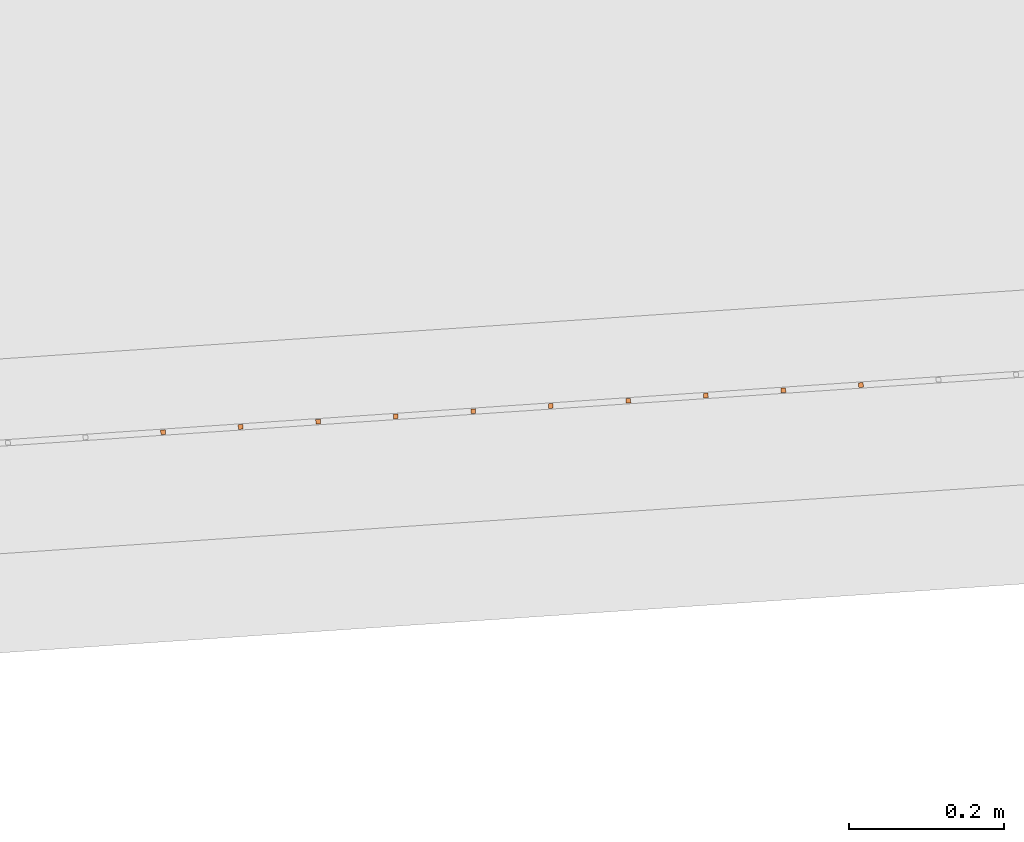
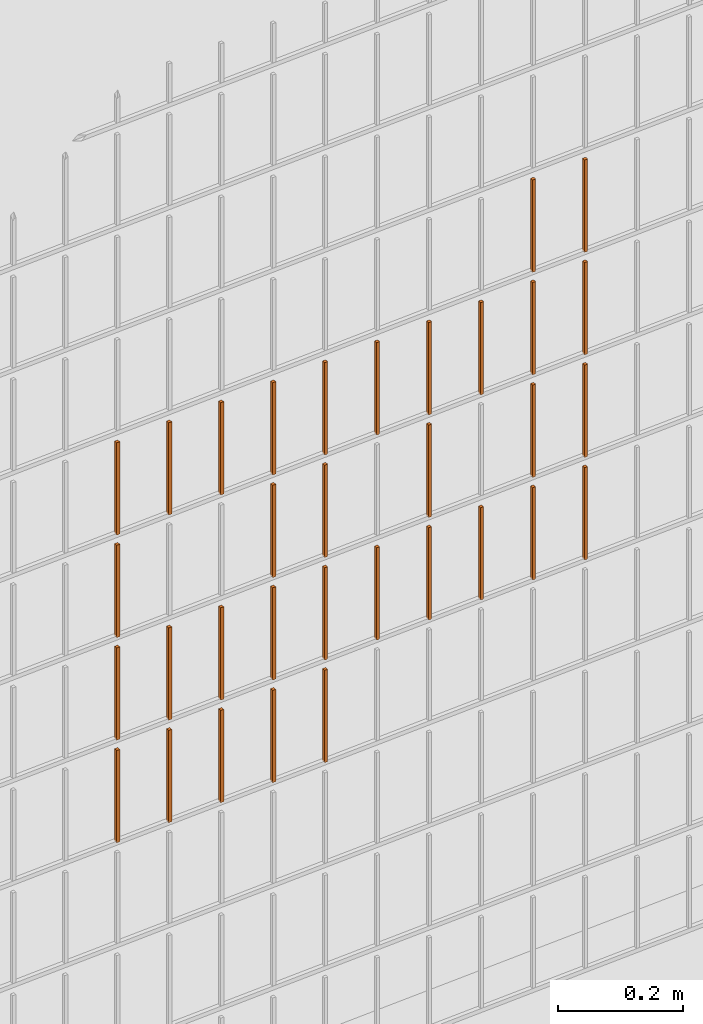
# One storey, part 287 of 1809: 33 proxies, 1 element without a shape of its own.
"""IFC2X3 building model written with IfcOpenShell, lengths in millimetres."""

import ifcopenshell
import ifcopenshell.guid

model = None  # the IFC model being written
_history = None  # IfcOwnerHistory: only IFC2X3 demands one
_inside = {}  # id of a spatial element -> (the spatial element, [elements in it])
_under = {}  # id of a project, library or spatial element -> (it, [spatial elements below it])
_declared = {}  # id of a project -> (the project, [libraries it declares])
_typed = {}  # id of a type object -> (the type object, [elements of that type])
_made_of = {}  # id of a material, layer set ... -> (it, [elements and type objects made of it])


def new_model(schema):
    """Start an empty IFC model of exactly this schema.

    Asked for "IFC4X3", IfcOpenShell would pick the latest addendum, in which some entities
    have other attributes; the version numbers below select the first issue.
    IFC2X3 requires an IfcOwnerHistory on every rooted entity: one is made here for all.
    """
    global model, _history
    if schema == "IFC4X3":
        model = ifcopenshell.file(schema_version=(4, 3, 0, 0))
    else:
        model = ifcopenshell.file(schema=schema)
    _inside.clear()
    _under.clear()
    _declared.clear()
    _typed.clear()
    _made_of.clear()
    _history = None
    if model.schema == "IFC2X3":
        org = make("IfcOrganization", Name="unknown")
        user = make(
            "IfcPersonAndOrganization",
            ThePerson=make("IfcPerson", FamilyName="unknown"),
            TheOrganization=org,
        )
        app = make(
            "IfcApplication",
            ApplicationDeveloper=org,
            Version="unknown",
            ApplicationFullName="unknown",
            ApplicationIdentifier="unknown",
        )
        _history = make(
            "IfcOwnerHistory",
            OwningUser=user,
            OwningApplication=app,
            ChangeAction="ADDED",
            CreationDate=0,
        )
    return model


def make(cls, **values):
    """One entity of the class cls with the attributes given. An attribute that is None is left unset."""
    return model.create_entity(
        cls, **{name: value for name, value in values.items() if value is not None}
    )


def entity(cls, *values):
    """Any entity or typed value of the class cls, its attributes in the order of the schema. None: left unset."""
    e = model.create_entity(cls)
    for i, value in enumerate(values):
        if value is not None:
            e[i] = value
    return e


def rooted(cls, **values):
    """An entity with a GlobalId (a new one), such as an element, a storey or a relation."""
    return make(cls, GlobalId=ifcopenshell.guid.new(), OwnerHistory=_history, **values)


def si_unit(unit_type, name, prefix=None):
    """IfcSIUnit, for example si_unit("LENGTHUNIT", "METRE", prefix="MILLI")."""
    return make("IfcSIUnit", UnitType=unit_type, Prefix=prefix, Name=name)


def converted_unit(unit_type, name, factor, base, dimensions=None, offset=None):
    """IfcConversionBasedUnit, such as the inch: factor (a typed value) times the base unit."""
    return make(
        "IfcConversionBasedUnit"
        if offset is None
        else "IfcConversionBasedUnitWithOffset",
        ConversionOffset=offset,
        Dimensions=None
        if dimensions is None
        else entity("IfcDimensionalExponents", *dimensions),
        UnitType=unit_type,
        Name=name,
        ConversionFactor=make(
            "IfcMeasureWithUnit", ValueComponent=factor, UnitComponent=base
        ),
    )


def derived_unit(unit_type, elements):
    """IfcDerivedUnit: a product of units, each with its exponent."""
    return make(
        "IfcDerivedUnit",
        Elements=[
            make("IfcDerivedUnitElement", Unit=unit, Exponent=power)
            for unit, power in elements
        ],
        UnitType=unit_type,
    )


def money_unit(currency):
    """IfcMonetaryUnit."""
    return make("IfcMonetaryUnit", Currency=currency)


def assignment(units):
    """IfcUnitAssignment: the units of a project."""
    return None if units is None else make("IfcUnitAssignment", Units=units)


def point(xyz):
    """IfcCartesianPoint."""
    return None if xyz is None else make("IfcCartesianPoint", Coordinates=xyz)


def direction(xyz):
    """IfcDirection."""
    return None if xyz is None else make("IfcDirection", DirectionRatios=xyz)


def frame(location, z_axis=None, x_axis=None):
    """IfcAxis2Placement3D, a coordinate frame: its origin and axes. An axis left out is left unset."""
    return make(
        "IfcAxis2Placement3D",
        Location=point(location),
        Axis=direction(z_axis),
        RefDirection=direction(x_axis),
    )


def origin_with_axes():
    """The frame at (0, 0, 0) with the z axis (0, 0, 1) and the x axis (1, 0, 0) written out."""
    return frame((0.0, 0.0, 0.0), z_axis=(0.0, 0.0, 1.0), x_axis=(1.0, 0.0, 0.0))


def place(relative_to, where):
    """IfcLocalPlacement: puts the frame where relative to a parent placement (None: the world)."""
    return make(
        "IfcLocalPlacement", PlacementRelTo=relative_to, RelativePlacement=where
    )


def context(
    kind, dimensions, precision=None, world=None, true_north=None, identifier=None
):
    """IfcGeometricRepresentationContext, for example the 3D "Model" context."""
    return make(
        "IfcGeometricRepresentationContext",
        ContextIdentifier=identifier,
        ContextType=kind,
        CoordinateSpaceDimension=dimensions,
        Precision=precision,
        WorldCoordinateSystem=world,
        TrueNorth=true_north,
    )


def subcontext(parent, identifier, kind, view, scale=None):
    """IfcGeometricRepresentationSubContext, for example "Body" below "Model"."""
    return make(
        "IfcGeometricRepresentationSubContext",
        ContextIdentifier=identifier,
        ContextType=kind,
        ParentContext=parent,
        TargetScale=scale,
        TargetView=view,
    )


def project(units=None, contexts=None):
    """IfcProject with its units and contexts."""
    return rooted(
        "IfcProject",
        Name="project",
        RepresentationContexts=contexts,
        UnitsInContext=assignment(units),
    )


def spatial(cls, under=None, at=None, **own):
    """A site, building, storey or space (cls), placed at a placement, below another one or the project."""
    s = rooted(cls, ObjectPlacement=at, **own)
    if under is not None:
        _under.setdefault(under.id(), (under, []))[1].append(s)
    return s


def faces_of(points, faces, orient=None, outer=None):
    """IfcFace entities. A face is a list of loops; a loop is a list of indices into points, from 0.

    orient and outer hold one flag for each loop. By default every Orientation is true, the
    first loop of a face is its IfcFaceOuterBound and the others are IfcFaceBound.
    """
    made = []
    for i, loops in enumerate(faces):
        bounds = []
        for j, loop in enumerate(loops):
            is_outer = j == 0 if outer is None else outer[i][j]
            bounds.append(
                make(
                    "IfcFaceOuterBound" if is_outer else "IfcFaceBound",
                    Bound=make("IfcPolyLoop", Polygon=[points[k] for k in loop]),
                    Orientation=True if orient is None else orient[i][j],
                )
            )
        made.append(make("IfcFace", Bounds=bounds))
    return made


def faceted_brep(points, faces, orient=None, outer=None, voids=None):
    """IfcFacetedBrep: a solid bounded by flat faces; with voids (closed shells), ...WithVoids."""
    shared = [point(p) for p in points]
    hull = make("IfcClosedShell", CfsFaces=faces_of(shared, faces, orient, outer))
    if voids is None:
        return make("IfcFacetedBrep", Outer=hull)
    return make(
        "IfcFacetedBrepWithVoids",
        Outer=hull,
        Voids=[
            make(cls, CfsFaces=faces_of(shared, fs, o, b)) for cls, fs, o, b in voids
        ],
    )


def shape(context_of_items, identifier, shape_type, items):
    """IfcShapeRepresentation: the items that make up one representation, for example the "Body"."""
    return make(
        "IfcShapeRepresentation",
        ContextOfItems=context_of_items,
        RepresentationIdentifier=identifier,
        RepresentationType=shape_type,
        Items=items,
    )


def source(mapping_origin, context_of_items, identifier, shape_type, items):
    """IfcRepresentationMap: a shape defined once, which mapped items show again and again."""
    return make(
        "IfcRepresentationMap",
        MappingOrigin=mapping_origin,
        MappedRepresentation=shape(context_of_items, identifier, shape_type, items),
    )


def transform(
    local_origin,
    x_axis=None,
    y_axis=None,
    z_axis=None,
    scale=None,
    scale2=None,
    scale3=None,
    uniform=True,
):
    """IfcCartesianTransformationOperator3D, or its non-uniform kind. x_axis, y_axis, z_axis: its Axis1, 2, 3."""
    if uniform:
        return make(
            "IfcCartesianTransformationOperator3D",
            Axis1=direction(x_axis),
            Axis2=direction(y_axis),
            LocalOrigin=point(local_origin),
            Scale=scale,
            Axis3=direction(z_axis),
        )
    return make(
        "IfcCartesianTransformationOperator3DnonUniform",
        Axis1=direction(x_axis),
        Axis2=direction(y_axis),
        LocalOrigin=point(local_origin),
        Scale=scale,
        Axis3=direction(z_axis),
        Scale2=scale2,
        Scale3=scale3,
    )


def mapped(mapping_source, mapping_target):
    """IfcMappedItem: shows the shape of a source again, moved by a transform."""
    return make(
        "IfcMappedItem", MappingSource=mapping_source, MappingTarget=mapping_target
    )


def material(Name=None, Category=None):
    """IfcMaterial."""
    return make("IfcMaterial", Name=Name, Category=Category)


def made_of(thing, what):
    """Note that an element or type object is made of a material, layer set ...; save() writes the relation."""
    if what is not None:
        _made_of.setdefault(what.id(), (what, []))[1].append(thing)
    return thing


def type_object(cls, material=None, **own):
    """A type object (cls), such as IfcWallType, which elements share."""
    return made_of(rooted(cls, **own), material)


def element(
    cls,
    number,
    at=None,
    inside=None,
    cuts=None,
    type_object=None,
    material=None,
    context=None,
    identifier="Body",
    shape_type=None,
    held_by="IfcProductDefinitionShape",
    body=None,
    shapes=None,
    **own,
):
    """One element of the class cls, such as IfcWall. Its Tag is "e" and its number.

    at: its placement. inside: the storey or other place that contains it. cuts: it is an
    opening in that element (IfcRelVoidsElement). A single representation is given by context,
    identifier, shape_type and body (its items); several are given by shapes. held_by: the class
    of the entity that holds the representations. save() writes the other relations.
    """
    e = rooted(cls, Tag="e%d" % number, ObjectPlacement=at, **own)
    if body is not None:
        shapes = [shape(context, identifier, shape_type, body)]
    if shapes is not None:
        e.Representation = make(held_by, Representations=shapes)
    if inside is not None:
        _inside.setdefault(inside.id(), (inside, []))[1].append(e)
    if cuts is not None:
        rooted(
            "IfcRelVoidsElement", RelatingBuildingElement=cuts, RelatedOpeningElement=e
        )
    if type_object is not None:
        _typed.setdefault(type_object.id(), (type_object, []))[1].append(e)
    return made_of(e, material)


def aggregate(whole, parts):
    """IfcRelAggregates: a whole, such as a stair, and the parts it consists of."""
    return rooted("IfcRelAggregates", RelatingObject=whole, RelatedObjects=parts)


def save(model, path):
    """Write the relations noted so far, then the file.

    IfcRelAggregates (storeys below a building ...), IfcRelContainedInSpatialStructure (elements
    in a storey), IfcRelDefinesByType, IfcRelAssociatesMaterial and IfcRelDeclares: one each for
    every whole, place, type object, material and project.
    """
    for whole, parts in _under.values():
        aggregate(whole, parts)
    for where, things in _inside.values():
        rooted(
            "IfcRelContainedInSpatialStructure",
            RelatedElements=things,
            RelatingStructure=where,
        )
    for kind, things in _typed.values():
        rooted("IfcRelDefinesByType", RelatedObjects=things, RelatingType=kind)
    for what, things in _made_of.values():
        rooted("IfcRelAssociatesMaterial", RelatedObjects=things, RelatingMaterial=what)
    for by, libraries in _declared.values():
        rooted("IfcRelDeclares", RelatingContext=by, RelatedDefinitions=libraries)
    model.write(path)


model = new_model("IFC2X3")

# Units and contexts
model_context = context("Model", 3, precision=0.01, world=origin_with_axes(), true_north=direction((0.0, 1.0)))
body_context = subcontext(model_context, "Body", "Model", "MODEL_VIEW")
ifc_project = project(units=[si_unit("LENGTHUNIT", "METRE", prefix="MILLI"), si_unit("AREAUNIT", "SQUARE_METRE"), si_unit("VOLUMEUNIT", "CUBIC_METRE"), converted_unit("PLANEANGLEUNIT", "DEGREE", entity("IfcPlaneAngleMeasure", 0.0174532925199), si_unit("PLANEANGLEUNIT", "RADIAN"), dimensions=[0, 0, 0, 0, 0, 0, 0]), si_unit("SOLIDANGLEUNIT", "STERADIAN"), money_unit("EUR"), converted_unit("TIMEUNIT", "Year", entity("IfcTimeMeasure", 31556926.0), si_unit("TIMEUNIT", "SECOND"), dimensions=[0, 0, 1, 0, 0, 0, 0]), si_unit("MASSUNIT", "GRAM", prefix="KILO"), si_unit("THERMODYNAMICTEMPERATUREUNIT", "DEGREE_CELSIUS"), si_unit("LUMINOUSINTENSITYUNIT", "LUMEN"), si_unit("ENERGYUNIT", "JOULE", prefix="MEGA"), derived_unit("THERMALCONDUCTANCEUNIT", [(si_unit("POWERUNIT", "WATT"), 1), (si_unit("LENGTHUNIT", "METRE"), -1), (si_unit("THERMODYNAMICTEMPERATUREUNIT", "KELVIN"), -1)]), derived_unit("SPECIFICHEATCAPACITYUNIT", [(si_unit("ENERGYUNIT", "JOULE"), 1), (si_unit("MASSUNIT", "GRAM", prefix="KILO"), -1), (si_unit("THERMODYNAMICTEMPERATUREUNIT", "KELVIN"), -1)]), derived_unit("MASSDENSITYUNIT", [(si_unit("MASSUNIT", "GRAM", prefix="KILO"), 1), (si_unit("VOLUMEUNIT", "CUBIC_METRE"), -1)])], contexts=[model_context])

# Site, building, storey
site_placement = place(None, origin_with_axes())
site = spatial("IfcSite", under=ifc_project, at=site_placement, Name="Politse- ja Piirivalveameti ning Päästeameti ühishoone", CompositionType="ELEMENT")
building_placement = place(site_placement, origin_with_axes())
building = spatial("IfcBuilding", under=site, at=building_placement, Name="Politse- ja Piirivalveameti ning Päästeameti ühishoone", CompositionType="ELEMENT")
storey_placement = place(building_placement, origin_with_axes())
storey = spatial("IfcBuildingStorey", under=building, at=storey_placement, Name="Esimene korrus", CompositionType="ELEMENT", Elevation=0.0)

# Proxies
building_element_proxy_type_1 = type_object("IfcBuildingElementProxyType", Name="Railing Type", PredefinedType="NOTDEFINED")
proxy_1_placement = place(storey_placement, frame((89252.001212, -29183.4766571, 203.661247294), z_axis=(0.0, 0.0, 1.0), x_axis=(1.0, 0.0, 0.0)))
proxy_1 = element("IfcBuildingElementProxy", 1, at=proxy_1_placement, inside=storey, type_object=building_element_proxy_type_1, Name="PIIRDEAED")
ifc_material = material(Name="ET-03_Raud")
building_element_proxy_type_2 = type_object("IfcBuildingElementProxyType", Name="IfcBuildingElementProxy", PredefinedType="NOTDEFINED")
shared_shape_1 = source(origin_with_axes(), body_context, "Body", "Brep", [
    faceted_brep([(3.0, 3.0, -0.000752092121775), (-3.0, 3.0, -0.000752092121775), (-3.0, 3.0, 179.99926046), (3.0, 3.0, 179.99926046), (3.0, -3.0, 0.000752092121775), (-3.0, -3.0, 0.000752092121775), (-3.0, -3.0, 180.000764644), (3.0, -3.0, 180.000764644)], [[[0, 1, 2, 3]], [[0, 4, 5, 1]], [[1, 5, 6, 2]], [[3, 2, 6, 7]], [[4, 0, 3, 7]], [[5, 4, 7, 6]]]),
])
proxy_2_placement = place(proxy_1_placement, frame((-48815.4546236, -20595.0744985, 614.968593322), z_axis=(0.0, 0.0, 1.0), x_axis=(1.0, 0.0, 0.0)))
proxy_2 = element("IfcBuildingElementProxy", 2, at=proxy_2_placement, type_object=building_element_proxy_type_2, material=ifc_material, Name="BALUSTER - 001", context=body_context, shape_type="MappedRepresentation", body=[
    mapped(shared_shape_1, transform((0.0, 0.0, 0.0), x_axis=(-0.0673926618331, 0.997726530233, 0.0), y_axis=(-0.997726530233, -0.0673926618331, 0.0), z_axis=(0.0, 0.0, 1.0))),
])
shared_shape_2 = source(origin_with_axes(), body_context, "Body", "Brep", [
    faceted_brep([(3.0, 3.0, -0.000752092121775), (-3.0, 3.0, -0.000752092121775), (-3.0, 3.0, 179.99926046), (3.0, 3.0, 179.99926046), (3.0, -3.0, 0.000752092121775), (-3.0, -3.0, 0.000752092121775), (-3.0, -3.0, 180.000764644), (3.0, -3.0, 180.000764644)], [[[0, 1, 2, 3]], [[0, 4, 5, 1]], [[1, 5, 6, 2]], [[3, 2, 6, 7]], [[4, 0, 3, 7]], [[5, 4, 7, 6]]]),
])
proxy_3_placement = place(proxy_1_placement, frame((-48416.3640115, -20568.1174338, 815.068872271), z_axis=(0.0, 0.0, 1.0), x_axis=(1.0, 0.0, 0.0)))
proxy_3 = element("IfcBuildingElementProxy", 3, at=proxy_3_placement, type_object=building_element_proxy_type_2, material=ifc_material, Name="BALUSTER - 001", context=body_context, shape_type="MappedRepresentation", body=[
    mapped(shared_shape_2, transform((0.0, 0.0, 0.0), x_axis=(-0.0673926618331, 0.997726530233, 0.0), y_axis=(-0.997726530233, -0.0673926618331, 0.0), z_axis=(0.0, 0.0, 1.0))),
])
proxy_4_placement = place(proxy_1_placement, frame((-48815.4546236, -20595.0744985, 814.968593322), z_axis=(0.0, 0.0, 1.0), x_axis=(1.0, 0.0, 0.0)))
proxy_4 = element("IfcBuildingElementProxy", 4, at=proxy_4_placement, type_object=building_element_proxy_type_2, material=ifc_material, Name="BALUSTER - 001", context=body_context, shape_type="MappedRepresentation", body=[
    mapped(shared_shape_2, transform((0.0, 0.0, 0.0), x_axis=(-0.0673926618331, 0.997726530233, 0.0), y_axis=(-0.997726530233, -0.0673926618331, 0.0), z_axis=(0.0, 0.0, 1.0))),
])
shared_shape_3 = source(origin_with_axes(), body_context, "Body", "Brep", [
    faceted_brep([(3.0, 3.0, -0.000752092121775), (-3.0, 3.0, -0.000752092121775), (-3.0, 3.0, 179.99926046), (3.0, 3.0, 179.99926046), (3.0, -3.0, 0.000752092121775), (-3.0, -3.0, 0.000752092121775), (-3.0, -3.0, 180.000764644), (3.0, -3.0, 180.000764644)], [[[0, 1, 2, 3]], [[0, 4, 5, 1]], [[1, 5, 6, 2]], [[3, 2, 6, 7]], [[4, 0, 3, 7]], [[5, 4, 7, 6]]]),
])
proxy_5_placement = place(proxy_1_placement, frame((-48316.5913585, -20561.3781676, 1215.09394201), z_axis=(0.0, 0.0, 1.0), x_axis=(1.0, 0.0, 0.0)))
proxy_5 = element("IfcBuildingElementProxy", 5, at=proxy_5_placement, type_object=building_element_proxy_type_2, material=ifc_material, Name="BALUSTER - 001", context=body_context, shape_type="MappedRepresentation", body=[
    mapped(shared_shape_3, transform((0.0, 0.0, 0.0), x_axis=(-0.0673926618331, 0.997726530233, 0.0), y_axis=(-0.997726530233, -0.0673926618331, 0.0), z_axis=(0.0, 0.0, 1.0))),
])
shared_shape_4 = source(origin_with_axes(), body_context, "Body", "Brep", [
    faceted_brep([(3.0, 3.0, -0.000752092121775), (-3.0, 3.0, -0.000752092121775), (-3.0, 3.0, 179.99926046), (3.0, 3.0, 179.99926046), (3.0, -3.0, 0.000752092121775), (-3.0, -3.0, 0.000752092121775), (-3.0, -3.0, 180.000764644), (3.0, -3.0, 180.000764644)], [[[0, 1, 2, 3]], [[0, 4, 5, 1]], [[1, 5, 6, 2]], [[3, 2, 6, 7]], [[4, 0, 3, 7]], [[5, 4, 7, 6]]]),
])
proxy_6_placement = place(proxy_1_placement, frame((-48316.5913585, -20561.3781676, 815.093942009), z_axis=(0.0, 0.0, 1.0), x_axis=(1.0, 0.0, 0.0)))
proxy_6 = element("IfcBuildingElementProxy", 6, at=proxy_6_placement, type_object=building_element_proxy_type_2, material=ifc_material, Name="BALUSTER - 001", context=body_context, shape_type="MappedRepresentation", body=[
    mapped(shared_shape_4, transform((0.0, 0.0, 0.0), x_axis=(-0.0673926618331, 0.997726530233, 0.0), y_axis=(-0.997726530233, -0.0673926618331, 0.0), z_axis=(0.0, 0.0, 1.0))),
])
shared_shape_5 = source(origin_with_axes(), body_context, "Body", "Brep", [
    faceted_brep([(3.0, 3.0, -0.000752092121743), (-3.0, 3.0, -0.000752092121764), (-3.0, 3.0, 179.99926046), (3.0, 3.0, 179.99926046), (3.0, -3.0, 0.000752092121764), (-3.0, -3.0, 0.000752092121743), (-3.0, -3.0, 180.000764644), (3.0, -3.0, 180.000764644)], [[[0, 1, 2, 3]], [[0, 4, 5, 1]], [[1, 5, 6, 2]], [[3, 2, 6, 7]], [[4, 0, 3, 7]], [[5, 4, 7, 6]]]),
])
proxy_7_placement = place(proxy_1_placement, frame((-48715.6819706, -20588.3352324, 814.993663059), z_axis=(0.0, 0.0, 1.0), x_axis=(1.0, 0.0, 0.0)))
proxy_7 = element("IfcBuildingElementProxy", 7, at=proxy_7_placement, type_object=building_element_proxy_type_2, material=ifc_material, Name="BALUSTER - 001", context=body_context, shape_type="MappedRepresentation", body=[
    mapped(shared_shape_5, transform((0.0, 0.0, 0.0), x_axis=(-0.0673926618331, 0.997726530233, 0.0), y_axis=(-0.997726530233, -0.0673926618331, 0.0), z_axis=(0.0, 0.0, 1.0))),
])
shared_shape_6 = source(origin_with_axes(), body_context, "Body", "Brep", [
    faceted_brep([(3.0, 3.0, -0.000752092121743), (-3.0, 3.0, -0.000752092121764), (-3.0, 3.0, 179.99926046), (3.0, 3.0, 179.99926046), (3.0, -3.0, 0.000752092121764), (-3.0, -3.0, 0.000752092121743), (-3.0, -3.0, 180.000764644), (3.0, -3.0, 180.000764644)], [[[0, 1, 2, 3]], [[0, 4, 5, 1]], [[1, 5, 6, 2]], [[3, 2, 6, 7]], [[4, 0, 3, 7]], [[5, 4, 7, 6]]]),
])
proxy_8_placement = place(proxy_1_placement, frame((-48715.6819706, -20588.3352324, 614.993663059), z_axis=(0.0, 0.0, 1.0), x_axis=(1.0, 0.0, 0.0)))
proxy_8 = element("IfcBuildingElementProxy", 8, at=proxy_8_placement, type_object=building_element_proxy_type_2, material=ifc_material, Name="BALUSTER - 001", context=body_context, shape_type="MappedRepresentation", body=[
    mapped(shared_shape_6, transform((0.0, 0.0, 0.0), x_axis=(-0.0673926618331, 0.997726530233, 0.0), y_axis=(-0.997726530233, -0.0673926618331, 0.0), z_axis=(0.0, 0.0, 1.0))),
])
shared_shape_7 = source(origin_with_axes(), body_context, "Body", "Brep", [
    faceted_brep([(3.0, 3.0, -0.000752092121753), (-3.0, 3.0, -0.000752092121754), (-3.0, 3.0, 179.99926046), (3.0, 3.0, 179.99926046), (3.0, -3.0, 0.000752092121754), (-3.0, -3.0, 0.000752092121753), (-3.0, -3.0, 180.000764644), (3.0, -3.0, 180.000764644)], [[[0, 1, 2, 3]], [[0, 4, 5, 1]], [[1, 5, 6, 2]], [[3, 2, 6, 7]], [[4, 0, 3, 7]], [[5, 4, 7, 6]]]),
])
proxy_9_placement = place(proxy_1_placement, frame((-48815.4546236, -20595.0744985, 1214.96859332), z_axis=(0.0, 0.0, 1.0), x_axis=(1.0, 0.0, 0.0)))
proxy_9 = element("IfcBuildingElementProxy", 9, at=proxy_9_placement, type_object=building_element_proxy_type_2, material=ifc_material, Name="BALUSTER - 001", context=body_context, shape_type="MappedRepresentation", body=[
    mapped(shared_shape_7, transform((0.0, 0.0, 0.0), x_axis=(-0.0673926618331, 0.997726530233, 0.0), y_axis=(-0.997726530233, -0.0673926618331, 0.0), z_axis=(0.0, 0.0, 1.0))),
])
shared_shape_8 = source(origin_with_axes(), body_context, "Body", "Brep", [
    faceted_brep([(3.0, 3.0, -0.000752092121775), (-3.0, 3.0, -0.000752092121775), (-3.0, 3.0, 179.99926046), (3.0, 3.0, 179.99926046), (3.0, -3.0, 0.000752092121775), (-3.0, -3.0, 0.000752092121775), (-3.0, -3.0, 180.000764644), (3.0, -3.0, 180.000764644)], [[[0, 1, 2, 3]], [[0, 4, 5, 1]], [[1, 5, 6, 2]], [[3, 2, 6, 7]], [[4, 0, 3, 7]], [[5, 4, 7, 6]]]),
])
proxy_10_placement = place(proxy_1_placement, frame((-48316.5913585, -20561.3781676, 1415.09394201), z_axis=(0.0, 0.0, 1.0), x_axis=(1.0, 0.0, 0.0)))
proxy_10 = element("IfcBuildingElementProxy", 10, at=proxy_10_placement, type_object=building_element_proxy_type_2, material=ifc_material, Name="BALUSTER - 001", context=body_context, shape_type="MappedRepresentation", body=[
    mapped(shared_shape_8, transform((0.0, 0.0, 0.0), x_axis=(-0.0673926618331, 0.997726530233, 0.0), y_axis=(-0.997726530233, -0.0673926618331, 0.0), z_axis=(0.0, 0.0, 1.0))),
])
shared_shape_9 = source(origin_with_axes(), body_context, "Body", "Brep", [
    faceted_brep([(3.0, 3.0, -0.000752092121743), (-3.0, 3.0, -0.000752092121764), (-3.0, 3.0, 179.99926046), (3.0, 3.0, 179.99926046), (3.0, -3.0, 0.000752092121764), (-3.0, -3.0, 0.000752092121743), (-3.0, -3.0, 180.000764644), (3.0, -3.0, 180.000764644)], [[[0, 1, 2, 3]], [[0, 4, 5, 1]], [[1, 5, 6, 2]], [[3, 2, 6, 7]], [[4, 0, 3, 7]], [[5, 4, 7, 6]]]),
])
proxy_11_placement = place(proxy_1_placement, frame((-48615.9093175, -20581.5959662, 1215.0187328), z_axis=(0.0, 0.0, 1.0), x_axis=(1.0, 0.0, 0.0)))
proxy_11 = element("IfcBuildingElementProxy", 11, at=proxy_11_placement, type_object=building_element_proxy_type_2, material=ifc_material, Name="BALUSTER - 001", context=body_context, shape_type="MappedRepresentation", body=[
    mapped(shared_shape_9, transform((0.0, 0.0, 0.0), x_axis=(-0.0673926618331, 0.997726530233, 0.0), y_axis=(-0.997726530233, -0.0673926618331, 0.0), z_axis=(0.0, 0.0, 1.0))),
])
shared_shape_10 = source(origin_with_axes(), body_context, "Body", "Brep", [
    faceted_brep([(3.0, 3.0, -0.000752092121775), (-3.0, 3.0, -0.000752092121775), (-3.0, 3.0, 179.99926046), (3.0, 3.0, 179.99926046), (3.0, -3.0, 0.000752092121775), (-3.0, -3.0, 0.000752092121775), (-3.0, -3.0, 180.000764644), (3.0, -3.0, 180.000764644)], [[[0, 1, 2, 3]], [[0, 4, 5, 1]], [[1, 5, 6, 2]], [[3, 2, 6, 7]], [[4, 0, 3, 7]], [[5, 4, 7, 6]]]),
])
proxy_12_placement = place(proxy_1_placement, frame((-48216.8187054, -20554.6389014, 1415.11901175), z_axis=(0.0, 0.0, 1.0), x_axis=(1.0, 0.0, 0.0)))
proxy_12 = element("IfcBuildingElementProxy", 12, at=proxy_12_placement, type_object=building_element_proxy_type_2, material=ifc_material, Name="BALUSTER - 001", context=body_context, shape_type="MappedRepresentation", body=[
    mapped(shared_shape_10, transform((0.0, 0.0, 0.0), x_axis=(-0.0673926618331, 0.997726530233, 0.0), y_axis=(-0.997726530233, -0.0673926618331, 0.0), z_axis=(0.0, 0.0, 1.0))),
])
shared_shape_11 = source(origin_with_axes(), body_context, "Body", "Brep", [
    faceted_brep([(3.0, 3.0, -0.000752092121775), (-3.0, 3.0, -0.000752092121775), (-3.0, 3.0, 179.99926046), (3.0, 3.0, 179.99926046), (3.0, -3.0, 0.000752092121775), (-3.0, -3.0, 0.000752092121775), (-3.0, -3.0, 180.000764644), (3.0, -3.0, 180.000764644)], [[[0, 1, 2, 3]], [[0, 4, 5, 1]], [[1, 5, 6, 2]], [[3, 2, 6, 7]], [[4, 0, 3, 7]], [[5, 4, 7, 6]]]),
])
proxy_13_placement = place(proxy_1_placement, frame((-49014.9999296, -20608.5530309, 614.918453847), z_axis=(0.0, 0.0, 1.0), x_axis=(1.0, 0.0, 0.0)))
proxy_13 = element("IfcBuildingElementProxy", 13, at=proxy_13_placement, type_object=building_element_proxy_type_2, material=ifc_material, Name="BALUSTER - 001", context=body_context, shape_type="MappedRepresentation", body=[
    mapped(shared_shape_11, transform((0.0, 0.0, 0.0), x_axis=(-0.0673926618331, 0.997726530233, 0.0), y_axis=(-0.997726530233, -0.0673926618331, 0.0), z_axis=(0.0, 0.0, 1.0))),
])
proxy_14_placement = place(proxy_1_placement, frame((-48216.8187054, -20554.6389014, 815.119011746), z_axis=(0.0, 0.0, 1.0), x_axis=(1.0, 0.0, 0.0)))
proxy_14 = element("IfcBuildingElementProxy", 14, at=proxy_14_placement, type_object=building_element_proxy_type_2, material=ifc_material, Name="BALUSTER - 001", context=body_context, shape_type="MappedRepresentation", body=[
    mapped(shared_shape_11, transform((0.0, 0.0, 0.0), x_axis=(-0.0673926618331, 0.997726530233, 0.0), y_axis=(-0.997726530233, -0.0673926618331, 0.0), z_axis=(0.0, 0.0, 1.0))),
])
proxy_15_placement = place(proxy_1_placement, frame((-48216.8187054, -20554.6389014, 1215.11901175), z_axis=(0.0, 0.0, 1.0), x_axis=(1.0, 0.0, 0.0)))
proxy_15 = element("IfcBuildingElementProxy", 15, at=proxy_15_placement, type_object=building_element_proxy_type_2, material=ifc_material, Name="BALUSTER - 001", context=body_context, shape_type="MappedRepresentation", body=[
    mapped(shared_shape_11, transform((0.0, 0.0, 0.0), x_axis=(-0.0673926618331, 0.997726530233, 0.0), y_axis=(-0.997726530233, -0.0673926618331, 0.0), z_axis=(0.0, 0.0, 1.0))),
])
shared_shape_12 = source(origin_with_axes(), body_context, "Body", "Brep", [
    faceted_brep([(3.0, 3.0, -0.000752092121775), (-3.0, 3.0, -0.000752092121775), (-3.0, 3.0, 179.99926046), (3.0, 3.0, 179.99926046), (3.0, -3.0, 0.000752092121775), (-3.0, -3.0, 0.000752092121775), (-3.0, -3.0, 180.000764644), (3.0, -3.0, 180.000764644)], [[[0, 1, 2, 3]], [[0, 4, 5, 1]], [[1, 5, 6, 2]], [[3, 2, 6, 7]], [[4, 0, 3, 7]], [[5, 4, 7, 6]]]),
])
proxy_16_placement = place(proxy_1_placement, frame((-49014.9999296, -20608.5530309, 814.918453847), z_axis=(0.0, 0.0, 1.0), x_axis=(1.0, 0.0, 0.0)))
proxy_16 = element("IfcBuildingElementProxy", 16, at=proxy_16_placement, type_object=building_element_proxy_type_2, material=ifc_material, Name="BALUSTER - 001", context=body_context, shape_type="MappedRepresentation", body=[
    mapped(shared_shape_12, transform((0.0, 0.0, 0.0), x_axis=(-0.0673926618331, 0.997726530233, 0.0), y_axis=(-0.997726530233, -0.0673926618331, 0.0), z_axis=(0.0, 0.0, 1.0))),
])
shared_shape_13 = source(origin_with_axes(), body_context, "Body", "Brep", [
    faceted_brep([(3.0, 3.0, -0.000752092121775), (-3.0, 3.0, -0.000752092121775), (-3.0, 3.0, 179.99926046), (3.0, 3.0, 179.99926046), (3.0, -3.0, 0.000752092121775), (-3.0, -3.0, 0.000752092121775), (-3.0, -3.0, 180.000764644), (3.0, -3.0, 180.000764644)], [[[0, 1, 2, 3]], [[0, 4, 5, 1]], [[1, 5, 6, 2]], [[3, 2, 6, 7]], [[4, 0, 3, 7]], [[5, 4, 7, 6]]]),
])
proxy_17_placement = place(proxy_1_placement, frame((-49014.9999296, -20608.5530309, 1214.91845385), z_axis=(0.0, 0.0, 1.0), x_axis=(1.0, 0.0, 0.0)))
proxy_17 = element("IfcBuildingElementProxy", 17, at=proxy_17_placement, type_object=building_element_proxy_type_2, material=ifc_material, Name="BALUSTER - 001", context=body_context, shape_type="MappedRepresentation", body=[
    mapped(shared_shape_13, transform((0.0, 0.0, 0.0), x_axis=(-0.0673926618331, 0.997726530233, 0.0), y_axis=(-0.997726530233, -0.0673926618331, 0.0), z_axis=(0.0, 0.0, 1.0))),
])
shared_shape_14 = source(origin_with_axes(), body_context, "Body", "Brep", [
    faceted_brep([(3.0, 3.0, -0.000752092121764), (-3.0, 3.0, -0.000752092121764), (-3.0, 3.0, 179.99926046), (3.0, 3.0, 179.99926046), (3.0, -3.0, 0.000752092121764), (-3.0, -3.0, 0.000752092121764), (-3.0, -3.0, 180.000764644), (3.0, -3.0, 180.000764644)], [[[0, 1, 2, 3]], [[0, 4, 5, 1]], [[1, 5, 6, 2]], [[3, 2, 6, 7]], [[4, 0, 3, 7]], [[5, 4, 7, 6]]]),
])
proxy_18_placement = place(proxy_1_placement, frame((-48715.6819706, -20588.3352324, 1214.99366306), z_axis=(0.0, 0.0, 1.0), x_axis=(1.0, 0.0, 0.0)))
proxy_18 = element("IfcBuildingElementProxy", 18, at=proxy_18_placement, type_object=building_element_proxy_type_2, material=ifc_material, Name="BALUSTER - 001", context=body_context, shape_type="MappedRepresentation", body=[
    mapped(shared_shape_14, transform((0.0, 0.0, 0.0), x_axis=(-0.0673926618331, 0.997726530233, 0.0), y_axis=(-0.997726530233, -0.0673926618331, 0.0), z_axis=(0.0, 0.0, 1.0))),
])
shared_shape_15 = source(origin_with_axes(), body_context, "Body", "Brep", [
    faceted_brep([(3.0, 3.0, -0.000752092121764), (-3.0, 3.0, -0.000752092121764), (-3.0, 3.0, 179.99926046), (3.0, 3.0, 179.99926046), (3.0, -3.0, 0.000752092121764), (-3.0, -3.0, 0.000752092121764), (-3.0, -3.0, 180.000764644), (3.0, -3.0, 180.000764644)], [[[0, 1, 2, 3]], [[0, 4, 5, 1]], [[1, 5, 6, 2]], [[3, 2, 6, 7]], [[4, 0, 3, 7]], [[5, 4, 7, 6]]]),
])
proxy_19_placement = place(proxy_1_placement, frame((-48915.2272766, -20601.8137647, 614.943523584), z_axis=(0.0, 0.0, 1.0), x_axis=(1.0, 0.0, 0.0)))
proxy_19 = element("IfcBuildingElementProxy", 19, at=proxy_19_placement, type_object=building_element_proxy_type_2, material=ifc_material, Name="BALUSTER - 001", context=body_context, shape_type="MappedRepresentation", body=[
    mapped(shared_shape_15, transform((0.0, 0.0, 0.0), x_axis=(-0.0673926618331, 0.997726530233, 0.0), y_axis=(-0.997726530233, -0.0673926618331, 0.0), z_axis=(0.0, 0.0, 1.0))),
])
shared_shape_16 = source(origin_with_axes(), body_context, "Body", "Brep", [
    faceted_brep([(3.0, 3.0, -0.000752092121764), (-3.0, 3.0, -0.000752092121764), (-3.0, 3.0, 179.99926046), (3.0, 3.0, 179.99926046), (3.0, -3.0, 0.000752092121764), (-3.0, -3.0, 0.000752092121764), (-3.0, -3.0, 180.000764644), (3.0, -3.0, 180.000764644)], [[[0, 1, 2, 3]], [[0, 4, 5, 1]], [[1, 5, 6, 2]], [[3, 2, 6, 7]], [[4, 0, 3, 7]], [[5, 4, 7, 6]]]),
])
proxy_20_placement = place(proxy_1_placement, frame((-48915.2272766, -20601.8137647, 814.943523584), z_axis=(0.0, 0.0, 1.0), x_axis=(1.0, 0.0, 0.0)))
proxy_20 = element("IfcBuildingElementProxy", 20, at=proxy_20_placement, type_object=building_element_proxy_type_2, material=ifc_material, Name="BALUSTER - 001", context=body_context, shape_type="MappedRepresentation", body=[
    mapped(shared_shape_16, transform((0.0, 0.0, 0.0), x_axis=(-0.0673926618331, 0.997726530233, 0.0), y_axis=(-0.997726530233, -0.0673926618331, 0.0), z_axis=(0.0, 0.0, 1.0))),
])
shared_shape_17 = source(origin_with_axes(), body_context, "Body", "Brep", [
    faceted_brep([(3.0, 3.0, -0.000752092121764), (-3.0, 3.0, -0.000752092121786), (-3.0, 3.0, 179.99926046), (3.0, 3.0, 179.99926046), (3.0, -3.0, 0.000752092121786), (-3.0, -3.0, 0.000752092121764), (-3.0, -3.0, 180.000764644), (3.0, -3.0, 180.000764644)], [[[0, 1, 2, 3]], [[0, 4, 5, 1]], [[1, 5, 6, 2]], [[3, 2, 6, 7]], [[4, 0, 3, 7]], [[5, 4, 7, 6]]]),
])
proxy_21_placement = place(proxy_1_placement, frame((-48915.2272766, -20601.8137647, 1214.94352358), z_axis=(0.0, 0.0, 1.0), x_axis=(1.0, 0.0, 0.0)))
proxy_21 = element("IfcBuildingElementProxy", 21, at=proxy_21_placement, type_object=building_element_proxy_type_2, material=ifc_material, Name="BALUSTER - 001", context=body_context, shape_type="MappedRepresentation", body=[
    mapped(shared_shape_17, transform((0.0, 0.0, 0.0), x_axis=(-0.0673926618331, 0.997726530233, 0.0), y_axis=(-0.997726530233, -0.0673926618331, 0.0), z_axis=(0.0, 0.0, 1.0))),
])
shared_shape_18 = source(origin_with_axes(), body_context, "Body", "Brep", [
    faceted_brep([(3.0, 3.0, -0.000752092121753), (-3.0, 3.0, -0.000752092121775), (-3.0, 3.0, 179.99926046), (3.0, 3.0, 179.99926046), (3.0, -3.0, 0.000752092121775), (-3.0, -3.0, 0.000752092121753), (-3.0, -3.0, 180.000764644), (3.0, -3.0, 180.000764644)], [[[0, 1, 2, 3]], [[0, 4, 5, 1]], [[1, 5, 6, 2]], [[3, 2, 6, 7]], [[4, 0, 3, 7]], [[5, 4, 7, 6]]]),
])
proxy_22_placement = place(proxy_1_placement, frame((-48516.1366645, -20574.8567, 815.043802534), z_axis=(0.0, 0.0, 1.0), x_axis=(1.0, 0.0, 0.0)))
proxy_22 = element("IfcBuildingElementProxy", 22, at=proxy_22_placement, type_object=building_element_proxy_type_2, material=ifc_material, Name="BALUSTER - 001", context=body_context, shape_type="MappedRepresentation", body=[
    mapped(shared_shape_18, transform((0.0, 0.0, 0.0), x_axis=(-0.0673926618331, 0.997726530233, 0.0), y_axis=(-0.997726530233, -0.0673926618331, 0.0), z_axis=(0.0, 0.0, 1.0))),
])
proxy_23_placement = place(proxy_1_placement, frame((-48416.3640115, -20568.1174338, 1215.06887227), z_axis=(0.0, 0.0, 1.0), x_axis=(1.0, 0.0, 0.0)))
proxy_23 = element("IfcBuildingElementProxy", 23, at=proxy_23_placement, type_object=building_element_proxy_type_2, material=ifc_material, Name="BALUSTER - 001", context=body_context, shape_type="MappedRepresentation", body=[
    mapped(shared_shape_18, transform((0.0, 0.0, 0.0), x_axis=(-0.0673926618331, 0.997726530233, 0.0), y_axis=(-0.997726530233, -0.0673926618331, 0.0), z_axis=(0.0, 0.0, 1.0))),
])
proxy_24_placement = place(proxy_1_placement, frame((-48516.1366645, -20574.8567, 1215.04380253), z_axis=(0.0, 0.0, 1.0), x_axis=(1.0, 0.0, 0.0)))
proxy_24 = element("IfcBuildingElementProxy", 24, at=proxy_24_placement, type_object=building_element_proxy_type_2, material=ifc_material, Name="BALUSTER - 001", context=body_context, shape_type="MappedRepresentation", body=[
    mapped(shared_shape_18, transform((0.0, 0.0, 0.0), x_axis=(-0.0673926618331, 0.997726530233, 0.0), y_axis=(-0.997726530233, -0.0673926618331, 0.0), z_axis=(0.0, 0.0, 1.0))),
])
shared_shape_19 = source(origin_with_axes(), body_context, "Body", "Brep", [
    faceted_brep([(3.0, 3.0, -0.000752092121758), (-3.0, 3.0, -0.00075209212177), (-3.00000000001, 3.0, 179.99926046), (2.99999999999, 3.0, 179.99926046), (3.0, -3.0, 0.00075209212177), (-3.0, -3.0, 0.000752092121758), (-3.00000000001, -3.0, 180.000764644), (2.99999999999, -3.0, 180.000764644)], [[[0, 1, 2, 3]], [[0, 4, 5, 1]], [[1, 5, 6, 2]], [[3, 2, 6, 7]], [[4, 0, 3, 7]], [[5, 4, 7, 6]]]),
])
proxy_25_placement = place(proxy_1_placement, frame((-48516.1366645, -20574.8567, 1015.04380253), z_axis=(0.0, 0.0, 1.0), x_axis=(1.0, 0.0, 0.0)))
proxy_25 = element("IfcBuildingElementProxy", 25, at=proxy_25_placement, type_object=building_element_proxy_type_2, material=ifc_material, Name="BALUSTER - 001", context=body_context, shape_type="MappedRepresentation", body=[
    mapped(shared_shape_19, transform((0.0, 0.0, 0.0), x_axis=(-0.0673926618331, 0.997726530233, 0.0), y_axis=(-0.997726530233, -0.0673926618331, 0.0), z_axis=(0.0, 0.0, 1.0))),
])
shared_shape_20 = source(origin_with_axes(), body_context, "Body", "Brep", [
    faceted_brep([(3.0, 3.0, -0.000752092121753), (-3.0, 3.0, -0.000752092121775), (-3.0, 3.0, 179.99926046), (3.0, 3.0, 179.99926046), (3.0, -3.0, 0.000752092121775), (-3.0, -3.0, 0.000752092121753), (-3.0, -3.0, 180.000764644), (3.0, -3.0, 180.000764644)], [[[0, 1, 2, 3]], [[0, 4, 5, 1]], [[1, 5, 6, 2]], [[3, 2, 6, 7]], [[4, 0, 3, 7]], [[5, 4, 7, 6]]]),
])
proxy_26_placement = place(proxy_1_placement, frame((-49114.7725827, -20615.2922971, 814.893384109), z_axis=(0.0, 0.0, 1.0), x_axis=(1.0, 0.0, 0.0)))
proxy_26 = element("IfcBuildingElementProxy", 26, at=proxy_26_placement, type_object=building_element_proxy_type_2, material=ifc_material, Name="BALUSTER - 001", context=body_context, shape_type="MappedRepresentation", body=[
    mapped(shared_shape_20, transform((0.0, 0.0, 0.0), x_axis=(-0.0673926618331, 0.997726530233, 0.0), y_axis=(-0.997726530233, -0.0673926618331, 0.0), z_axis=(0.0, 0.0, 1.0))),
])
proxy_27_placement = place(proxy_1_placement, frame((-49114.7725827, -20615.2922971, 1214.89338411), z_axis=(0.0, 0.0, 1.0), x_axis=(1.0, 0.0, 0.0)))
proxy_27 = element("IfcBuildingElementProxy", 27, at=proxy_27_placement, type_object=building_element_proxy_type_2, material=ifc_material, Name="BALUSTER - 001", context=body_context, shape_type="MappedRepresentation", body=[
    mapped(shared_shape_20, transform((0.0, 0.0, 0.0), x_axis=(-0.0673926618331, 0.997726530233, 0.0), y_axis=(-0.997726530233, -0.0673926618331, 0.0), z_axis=(0.0, 0.0, 1.0))),
])
shared_shape_21 = source(origin_with_axes(), body_context, "Body", "Brep", [
    faceted_brep([(3.0, 3.0, -0.000752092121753), (-3.0, 3.0, -0.000752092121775), (-3.0, 3.0, 179.99926046), (3.0, 3.0, 179.99926046), (3.0, -3.0, 0.000752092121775), (-3.0, -3.0, 0.000752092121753), (-3.0, -3.0, 180.000764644), (3.0, -3.0, 180.000764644)], [[[0, 1, 2, 3]], [[0, 4, 5, 1]], [[1, 5, 6, 2]], [[3, 2, 6, 7]], [[4, 0, 3, 7]], [[5, 4, 7, 6]]]),
])
proxy_28_placement = place(proxy_1_placement, frame((-49114.7725827, -20615.2922971, 614.893384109), z_axis=(0.0, 0.0, 1.0), x_axis=(1.0, 0.0, 0.0)))
proxy_28 = element("IfcBuildingElementProxy", 28, at=proxy_28_placement, type_object=building_element_proxy_type_2, material=ifc_material, Name="BALUSTER - 001", context=body_context, shape_type="MappedRepresentation", body=[
    mapped(shared_shape_21, transform((0.0, 0.0, 0.0), x_axis=(-0.0673926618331, 0.997726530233, 0.0), y_axis=(-0.997726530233, -0.0673926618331, 0.0), z_axis=(0.0, 0.0, 1.0))),
])
shared_shape_22 = source(origin_with_axes(), body_context, "Body", "Brep", [
    faceted_brep([(3.0, 3.0, -0.000752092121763), (-3.0, 3.0, -0.000752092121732), (-3.00000000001, 2.99999999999, 179.99926046), (2.99999999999, 2.99999999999, 179.99926046), (3.0, -3.0, 0.000752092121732), (-3.0, -3.0, 0.000752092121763), (-3.00000000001, -3.00000000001, 180.000764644), (2.99999999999, -3.00000000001, 180.000764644)], [[[0, 1, 2, 3]], [[0, 4, 5, 1]], [[1, 5, 6, 2]], [[3, 2, 6, 7]], [[4, 0, 3, 7]], [[5, 4, 7, 6]]]),
])
proxy_29_placement = place(proxy_1_placement, frame((-48815.4546236, -20595.0744985, 1014.96859332), z_axis=(0.0, 0.0, 1.0), x_axis=(1.0, 0.0, 0.0)))
proxy_29 = element("IfcBuildingElementProxy", 29, at=proxy_29_placement, type_object=building_element_proxy_type_2, material=ifc_material, Name="BALUSTER - 001", context=body_context, shape_type="MappedRepresentation", body=[
    mapped(shared_shape_22, transform((0.0, 0.0, 0.0), x_axis=(-0.0673926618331, 0.997726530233, 0.0), y_axis=(-0.997726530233, -0.0673926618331, 0.0), z_axis=(0.0, 0.0, 1.0))),
])
shared_shape_23 = source(origin_with_axes(), body_context, "Body", "Brep", [
    faceted_brep([(3.0, 3.0, -0.000752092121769), (-3.0, 3.0, -0.00075209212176), (-3.00000000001, 3.0, 179.99926046), (2.99999999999, 3.0, 179.99926046), (3.0, -3.0, 0.00075209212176), (-3.0, -3.0, 0.000752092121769), (-3.00000000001, -3.0, 180.000764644), (2.99999999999, -3.0, 180.000764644)], [[[0, 1, 2, 3]], [[0, 4, 5, 1]], [[1, 5, 6, 2]], [[3, 2, 6, 7]], [[4, 0, 3, 7]], [[5, 4, 7, 6]]]),
])
proxy_30_placement = place(proxy_1_placement, frame((-48216.8187054, -20554.6389014, 1015.11901175), z_axis=(0.0, 0.0, 1.0), x_axis=(1.0, 0.0, 0.0)))
proxy_30 = element("IfcBuildingElementProxy", 30, at=proxy_30_placement, type_object=building_element_proxy_type_2, material=ifc_material, Name="BALUSTER - 001", context=body_context, shape_type="MappedRepresentation", body=[
    mapped(shared_shape_23, transform((0.0, 0.0, 0.0), x_axis=(-0.0673926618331, 0.997726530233, 0.0), y_axis=(-0.997726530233, -0.0673926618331, 0.0), z_axis=(0.0, 0.0, 1.0))),
])
shared_shape_24 = source(origin_with_axes(), body_context, "Body", "Brep", [
    faceted_brep([(3.0, 3.0, -0.000752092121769), (-3.0, 3.0, -0.00075209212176), (-3.00000000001, 3.0, 179.99926046), (2.99999999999, 3.0, 179.99926046), (3.0, -3.0, 0.00075209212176), (-3.0, -3.0, 0.000752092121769), (-3.00000000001, -3.0, 180.000764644), (2.99999999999, -3.0, 180.000764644)], [[[0, 1, 2, 3]], [[0, 4, 5, 1]], [[1, 5, 6, 2]], [[3, 2, 6, 7]], [[4, 0, 3, 7]], [[5, 4, 7, 6]]]),
])
proxy_31_placement = place(proxy_1_placement, frame((-48316.5913585, -20561.3781676, 1015.09394201), z_axis=(0.0, 0.0, 1.0), x_axis=(1.0, 0.0, 0.0)))
proxy_31 = element("IfcBuildingElementProxy", 31, at=proxy_31_placement, type_object=building_element_proxy_type_2, material=ifc_material, Name="BALUSTER - 001", context=body_context, shape_type="MappedRepresentation", body=[
    mapped(shared_shape_24, transform((0.0, 0.0, 0.0), x_axis=(-0.0673926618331, 0.997726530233, 0.0), y_axis=(-0.997726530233, -0.0673926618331, 0.0), z_axis=(0.0, 0.0, 1.0))),
])
shared_shape_25 = source(origin_with_axes(), body_context, "Body", "Brep", [
    faceted_brep([(3.0, 3.0, -0.000752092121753), (-3.0, 3.0, -0.000752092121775), (-3.0, 3.0, 179.99926046), (3.0, 3.0, 179.99926046), (3.0, -3.0, 0.000752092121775), (-3.0, -3.0, 0.000752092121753), (-3.0, -3.0, 180.000764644), (3.0, -3.0, 180.000764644)], [[[0, 1, 2, 3]], [[0, 4, 5, 1]], [[1, 5, 6, 2]], [[3, 2, 6, 7]], [[4, 0, 3, 7]], [[5, 4, 7, 6]]]),
])
proxy_32_placement = place(proxy_1_placement, frame((-48615.9093175, -20581.5959662, 815.018732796), z_axis=(0.0, 0.0, 1.0), x_axis=(1.0, 0.0, 0.0)))
proxy_32 = element("IfcBuildingElementProxy", 32, at=proxy_32_placement, type_object=building_element_proxy_type_2, material=ifc_material, Name="BALUSTER - 001", context=body_context, shape_type="MappedRepresentation", body=[
    mapped(shared_shape_25, transform((0.0, 0.0, 0.0), x_axis=(-0.0673926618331, 0.997726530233, 0.0), y_axis=(-0.997726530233, -0.0673926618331, 0.0), z_axis=(0.0, 0.0, 1.0))),
])
shared_shape_26 = source(origin_with_axes(), body_context, "Body", "Brep", [
    faceted_brep([(3.0, 3.0, -0.000752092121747), (-3.0, 3.0, -0.00075209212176), (-3.00000000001, 3.0, 179.99926046), (2.99999999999, 3.0, 179.99926046), (3.0, -3.0, 0.00075209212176), (-3.0, -3.0, 0.000752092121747), (-3.00000000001, -3.0, 180.000764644), (2.99999999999, -3.0, 180.000764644)], [[[0, 1, 2, 3]], [[0, 4, 5, 1]], [[1, 5, 6, 2]], [[3, 2, 6, 7]], [[4, 0, 3, 7]], [[5, 4, 7, 6]]]),
])
proxy_33_placement = place(proxy_1_placement, frame((-49114.7725827, -20615.2922971, 1014.89338411), z_axis=(0.0, 0.0, 1.0), x_axis=(1.0, 0.0, 0.0)))
proxy_33 = element("IfcBuildingElementProxy", 33, at=proxy_33_placement, type_object=building_element_proxy_type_2, material=ifc_material, Name="BALUSTER - 001", context=body_context, shape_type="MappedRepresentation", body=[
    mapped(shared_shape_26, transform((0.0, 0.0, 0.0), x_axis=(-0.0673926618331, 0.997726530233, 0.0), y_axis=(-0.997726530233, -0.0673926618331, 0.0), z_axis=(0.0, 0.0, 1.0))),
])
shared_shape_27 = source(origin_with_axes(), body_context, "Body", "Brep", [
    faceted_brep([(3.0, 3.0, -0.000752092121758), (-3.0, 3.0, -0.000752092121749), (-3.00000000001, 3.0, 179.99926046), (2.99999999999, 3.0, 179.99926046), (3.0, -3.0, 0.000752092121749), (-3.0, -3.0, 0.000752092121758), (-3.00000000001, -3.0, 180.000764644), (2.99999999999, -3.0, 180.000764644)], [[[0, 1, 2, 3]], [[0, 4, 5, 1]], [[1, 5, 6, 2]], [[3, 2, 6, 7]], [[4, 0, 3, 7]], [[5, 4, 7, 6]]]),
])
proxy_34_placement = place(proxy_1_placement, frame((-48715.6819706, -20588.3352324, 1014.99366306), z_axis=(0.0, 0.0, 1.0), x_axis=(1.0, 0.0, 0.0)))
proxy_34 = element("IfcBuildingElementProxy", 34, at=proxy_34_placement, type_object=building_element_proxy_type_2, material=ifc_material, Name="BALUSTER - 001", context=body_context, shape_type="MappedRepresentation", body=[
    mapped(shared_shape_27, transform((0.0, 0.0, 0.0), x_axis=(-0.0673926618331, 0.997726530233, 0.0), y_axis=(-0.997726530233, -0.0673926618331, 0.0), z_axis=(0.0, 0.0, 1.0))),
])
aggregate(proxy_1, [proxy_8, proxy_2, proxy_19, proxy_13, proxy_28, proxy_14, proxy_6, proxy_3, proxy_22, proxy_32, proxy_7, proxy_4, proxy_20, proxy_16, proxy_26, proxy_30, proxy_31, proxy_25, proxy_34, proxy_29, proxy_33, proxy_15, proxy_5, proxy_23, proxy_24, proxy_11, proxy_18, proxy_9, proxy_21, proxy_17, proxy_27, proxy_12, proxy_10])

save(model, "model.ifc")
